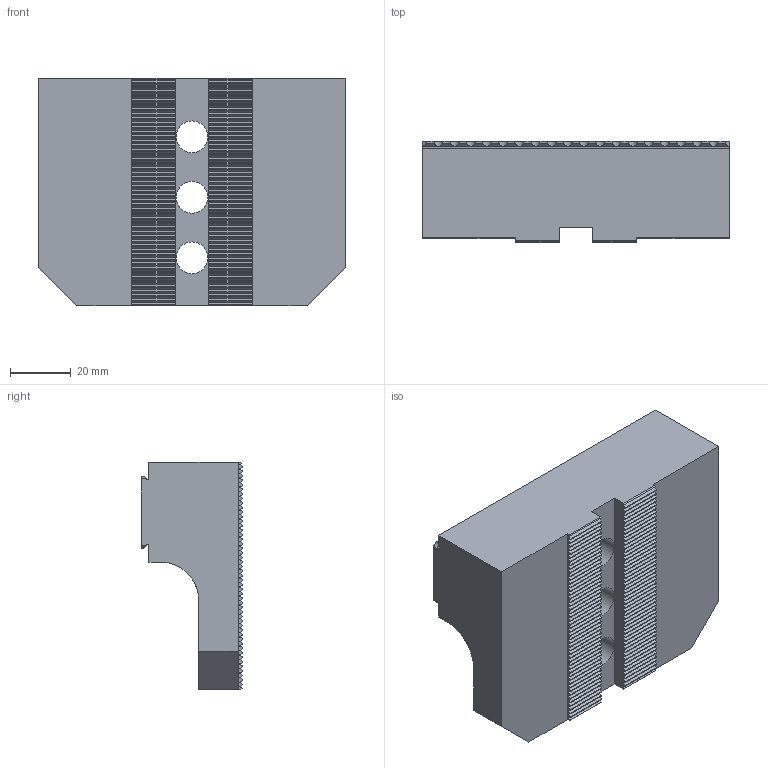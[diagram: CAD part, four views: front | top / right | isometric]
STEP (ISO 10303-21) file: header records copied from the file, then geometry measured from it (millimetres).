
FILE_DESCRIPTION (( 'STEP AP203' ), '1' );
FILE_NAME ('05-0168.STEP', '2021-09-14T23:12:41', ( '' ), ( '' ), 'SwSTEP 2.0', 'SolidWorks 2020', '' );
FILE_SCHEMA (( 'CONFIG_CONTROL_DESIGN' ));
Length unit declared in the file: inch
Products named in the file (1): 05-0168
Bounding box: 101.6 x 33.58 x 75.25 mm (x, y, z)
Volume: 151937.2 mm3; surface area: 28322.1 mm2
Topology: 1 solids, 1 shells, 585 faces, 1746 edges, 1164 vertices
Faces by surface type: plane 364, cylinder 221
Entity records: 19881 total; most frequent: CARTESIAN_POINT 3964, ORIENTED_EDGE 3492, DIRECTION 3156, EDGE_CURVE 1746, VECTOR 1300, LINE 1300, VERTEX_POINT 1164, AXIS2_PLACEMENT_3D 928
